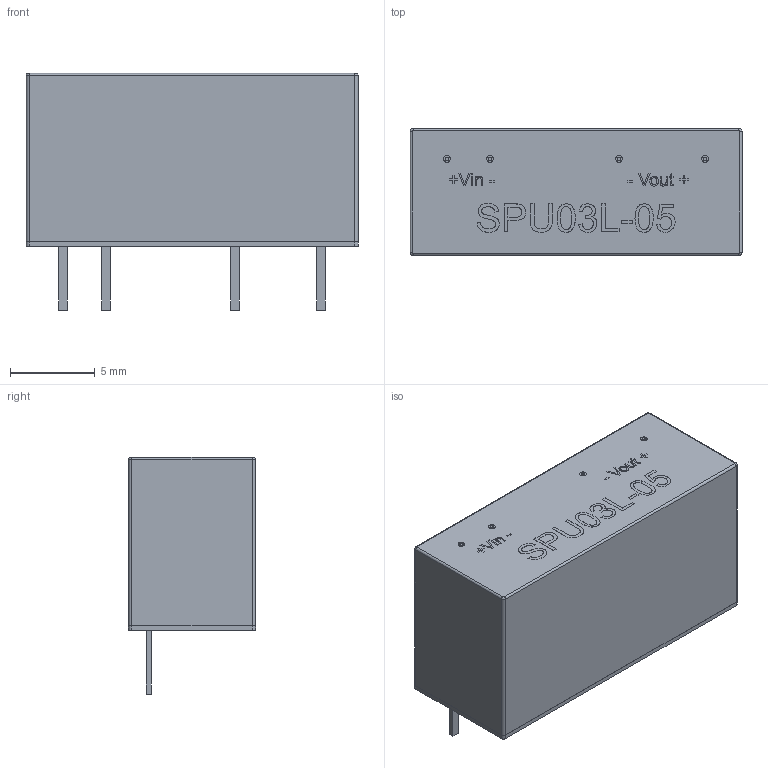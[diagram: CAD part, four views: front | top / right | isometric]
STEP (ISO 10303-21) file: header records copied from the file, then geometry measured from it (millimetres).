
FILE_DESCRIPTION(('Open CASCADE Model'),'2;1');
FILE_NAME('Open CASCADE Shape Model','2026-10-09T22:42:33',('Author'),( 'Open CASCADE'),'Open CASCADE STEP processor 7.9','Open CASCADE 7.9' ,'Unknown');
FILE_SCHEMA(('AUTOMOTIVE_DESIGN { 1 0 10303 214 1 1 1 1 }'));
Length unit declared in the file: millimetre
Products named in the file (15): SPU03L-05; Black_moulded_case; Case_base; Underside_potting; Pin_1; Pin_2; Pin_5; Pin_7; Part_number_print; Input_print; Output_print; Printed_terminal_1; Printed_terminal_2; Printed_terminal_5; Printed_terminal_7
Assembly tree (14 placements, depth 2):
  SPU03L-05
    Black_moulded_case
    Case_base
    Underside_potting
    Pin_1
    Pin_2
    Pin_5
    Pin_7
    Part_number_print
    Input_print
    Output_print
    Printed_terminal_1
    Printed_terminal_2
    Printed_terminal_5
    Printed_terminal_7
Bounding box: 19.6 x 7.5 x 14.02 mm (x, y, z)
Volume: 1502.5 mm3; surface area: 1425 mm2
Topology: 32 solids, 32 shells, 437 faces, 1095 edges, 722 vertices
Faces by surface type: plane 226, extrusion 187, cylinder 20, revolution 4
Full cylindrical faces by diameter (mm): 0.2 x4, 0.4 x4
Entity records: 27907 total; most frequent: CARTESIAN_POINT 6433, DIRECTION 3268, VECTOR 2632, LINE 2445, ORIENTED_EDGE 2190, PCURVE 2190, DEFINITIONAL_REPRESENTATION 2190, EDGE_CURVE 1095
